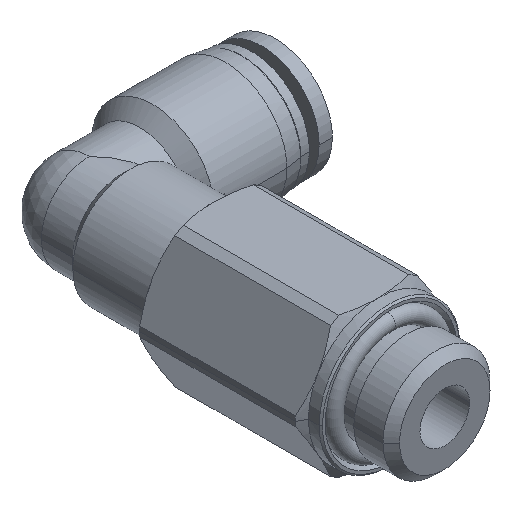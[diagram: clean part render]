
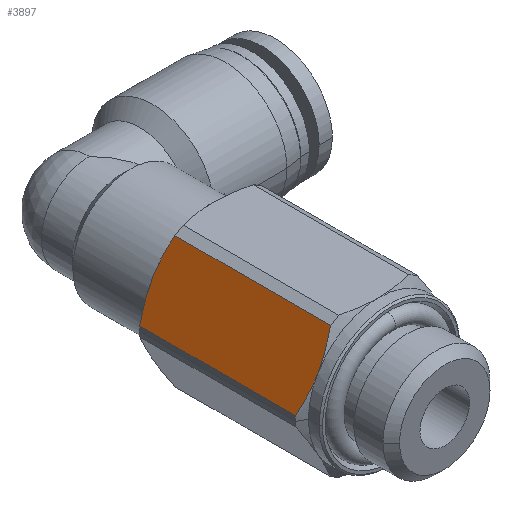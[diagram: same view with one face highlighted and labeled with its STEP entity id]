
A CAD part, isometric view. The second image highlights one B-rep face of the part: STEP entity #3897.
In plain terms, the highlighted planar face has unit normal (-0.866, 0, 0.5).
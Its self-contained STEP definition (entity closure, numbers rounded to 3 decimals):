
#51 = ORIENTED_EDGE ( 'NONE', *, *, #2745, .F. ) ;
#173 = EDGE_CURVE ( 'NONE', #3879, #340, #2476, .T. ) ;
#234 = CARTESIAN_POINT ( 'NONE',  ( -6.417, -0.119, 5.885 ) ) ;
#334 = CARTESIAN_POINT ( 'NONE',  ( -9.815, 0., 0. ) ) ;
#340 = VERTEX_POINT ( 'NONE', #2153 ) ;
#532 = CARTESIAN_POINT ( 'NONE',  ( -9.483, -19.423, 0.576 ) ) ;
#553 = CARTESIAN_POINT ( 'NONE',  ( -5.24, -19.423, 7.924 ) ) ;
#583 = CARTESIAN_POINT ( 'NONE',  ( -7.7, -20., 3.663 ) ) ;
#585 = EDGE_CURVE ( 'NONE', #1090, #591, #2220, .T. ) ;
#591 = VERTEX_POINT ( 'NONE', #3605 ) ;
#604 = CARTESIAN_POINT ( 'NONE',  ( -8.74, -19.763, 1.861 ) ) ;
#616 = EDGE_LOOP ( 'NONE', ( #51, #657, #2589, #2198, #4226, #4075 ) ) ;
#624 = CARTESIAN_POINT ( 'NONE',  ( -6.374, -0.131, 5.96 ) ) ;
#646 = CARTESIAN_POINT ( 'NONE',  ( -5.613, -0.385, 7.278 ) ) ;
#657 = ORIENTED_EDGE ( 'NONE', *, *, #3191, .F. ) ;
#729 = CARTESIAN_POINT ( 'NONE',  ( -5.24, -19.423, 7.924 ) ) ;
#859 = CARTESIAN_POINT ( 'NONE',  ( -5.24, -13.141, 7.924 ) ) ;
#864 = CARTESIAN_POINT ( 'NONE',  ( -9.296, -0.481, 0.899 ) ) ;
#872 = AXIS2_PLACEMENT_3D ( 'NONE', #334, #4572, #2799 ) ;
#885 = CARTESIAN_POINT ( 'NONE',  ( -8.841, -0.288, 1.686 ) ) ;
#946 = CARTESIAN_POINT ( 'NONE',  ( -6.482, -0.103, 5.772 ) ) ;
#1090 = VERTEX_POINT ( 'NONE', #2610 ) ;
#1250 = CARTESIAN_POINT ( 'NONE',  ( -8.549, -0.188, 2.193 ) ) ;
#1315 = CARTESIAN_POINT ( 'NONE',  ( -9.104, -19.618, 1.231 ) ) ;
#1345 = B_SPLINE_CURVE_WITH_KNOTS ( 'NONE', 3,
 ( #1578, #864, #2988, #885, #1944, #3358, #1250, #4502, #3029, #4526, #3450, #2404, #1989 ),
 .UNSPECIFIED., .F., .F.,
 ( 4, 2, 2, 1, 2, 2, 4 ),
 ( 0., 0.25, 0.375, 0.437, 0.469, 0.5, 1. ),
 .UNSPECIFIED. ) ;
#1392 = CARTESIAN_POINT ( 'NONE',  ( -9.483, -0.577, 0.576 ) ) ;
#1433 = CARTESIAN_POINT ( 'NONE',  ( -5.24, -0.577, 7.924 ) ) ;
#1455 = B_SPLINE_CURVE_WITH_KNOTS ( 'NONE', 3,
 ( #2727, #1315, #604, #2034, #583, #2012 ),
 .UNSPECIFIED., .F., .F.,
 ( 4, 2, 4 ),
 ( 0., 0.5, 1. ),
 .UNSPECIFIED. ) ;
#1571 = CARTESIAN_POINT ( 'NONE',  ( -5.24, -0.577, 7.924 ) ) ;
#1578 = CARTESIAN_POINT ( 'NONE',  ( -9.483, -0.577, 0.576 ) ) ;
#1639 = CARTESIAN_POINT ( 'NONE',  ( -5.24, -0.577, 7.924 ) ) ;
#1864 = CARTESIAN_POINT ( 'NONE',  ( -7.023, -20., 4.836 ) ) ;
#1944 = CARTESIAN_POINT ( 'NONE',  ( -8.751, -0.255, 1.843 ) ) ;
#1989 = CARTESIAN_POINT ( 'NONE',  ( -7.361, 0., 4.25 ) ) ;
#2012 = CARTESIAN_POINT ( 'NONE',  ( -7.361, -20., 4.25 ) ) ;
#2034 = CARTESIAN_POINT ( 'NONE',  ( -8.044, -19.953, 3.068 ) ) ;
#2084 = FACE_OUTER_BOUND ( 'NONE', #616, .T. ) ;
#2153 = CARTESIAN_POINT ( 'NONE',  ( -9.483, -19.423, 0.576 ) ) ;
#2198 = ORIENTED_EDGE ( 'NONE', *, *, #3264, .T. ) ;
#2220 = B_SPLINE_CURVE_WITH_KNOTS ( 'NONE', 3,
 ( #4261, #1864, #2480, #4308, #3907, #729 ),
 .UNSPECIFIED., .F., .F.,
 ( 4, 2, 4 ),
 ( 0., 0.5, 1. ),
 .UNSPECIFIED. ) ;
#2327 = CARTESIAN_POINT ( 'NONE',  ( -9.483, -13.141, 0.576 ) ) ;
#2402 = CARTESIAN_POINT ( 'NONE',  ( -6.547, -0.089, 5.66 ) ) ;
#2404 = CARTESIAN_POINT ( 'NONE',  ( -7.706, 0., 3.652 ) ) ;
#2476 = B_SPLINE_CURVE_WITH_KNOTS ( 'NONE', 3,
 ( #4059, #3396, #2327, #532 ),
 .UNSPECIFIED., .F., .F.,
 ( 4, 4 ),
 ( 0., 1. ),
 .UNSPECIFIED. ) ;
#2480 = CARTESIAN_POINT ( 'NONE',  ( -6.679, -19.953, 5.432 ) ) ;
#2589 = ORIENTED_EDGE ( 'NONE', *, *, #173, .T. ) ;
#2610 = CARTESIAN_POINT ( 'NONE',  ( -7.361, -20., 4.25 ) ) ;
#2659 = VERTEX_POINT ( 'NONE', #1433 ) ;
#2674 = CARTESIAN_POINT ( 'NONE',  ( -7.361, 0., 4.25 ) ) ;
#2725 = CARTESIAN_POINT ( 'NONE',  ( -7.361, 0., 4.25 ) ) ;
#2727 = CARTESIAN_POINT ( 'NONE',  ( -9.483, -19.423, 0.576 ) ) ;
#2745 = EDGE_CURVE ( 'NONE', #3392, #2659, #3291, .T. ) ;
#2748 = CARTESIAN_POINT ( 'NONE',  ( -7.189, 0., 4.549 ) ) ;
#2799 = DIRECTION ( 'NONE',  ( 0., 1., 0. ) ) ;
#2988 = CARTESIAN_POINT ( 'NONE',  ( -9.113, -0.397, 1.216 ) ) ;
#3029 = CARTESIAN_POINT ( 'NONE',  ( -8.437, -0.155, 2.387 ) ) ;
#3191 = EDGE_CURVE ( 'NONE', #3879, #3392, #1345, .T. ) ;
#3264 = EDGE_CURVE ( 'NONE', #340, #1090, #1455, .T. ) ;
#3291 = B_SPLINE_CURVE_WITH_KNOTS ( 'NONE', 3,
 ( #2725, #2748, #4131, #3757, #3405, #2402, #946, #234, #624, #3825, #4524, #646, #1639 ),
 .UNSPECIFIED., .F., .F.,
 ( 4, 2, 2, 1, 2, 2, 4 ),
 ( 0., 0.25, 0.375, 0.438, 0.469, 0.5, 1. ),
 .UNSPECIFIED. ) ;
#3358 = CARTESIAN_POINT ( 'NONE',  ( -8.616, -0.209, 2.076 ) ) ;
#3392 = VERTEX_POINT ( 'NONE', #2674 ) ;
#3396 = CARTESIAN_POINT ( 'NONE',  ( -9.483, -6.859, 0.576 ) ) ;
#3405 = CARTESIAN_POINT ( 'NONE',  ( -6.676, -0.062, 5.437 ) ) ;
#3450 = CARTESIAN_POINT ( 'NONE',  ( -8.043, -0.047, 3.068 ) ) ;
#3499 = PLANE ( 'NONE',  #872 ) ;
#3605 = CARTESIAN_POINT ( 'NONE',  ( -5.24, -19.423, 7.924 ) ) ;
#3757 = CARTESIAN_POINT ( 'NONE',  ( -6.761, -0.047, 5.288 ) ) ;
#3825 = CARTESIAN_POINT ( 'NONE',  ( -6.353, -0.136, 5.997 ) ) ;
#3879 = VERTEX_POINT ( 'NONE', #1392 ) ;
#3897 = ADVANCED_FACE ( 'NONE', ( #2084 ), #3499, .T. ) ;
#3907 = CARTESIAN_POINT ( 'NONE',  ( -5.619, -19.618, 7.268 ) ) ;
#3936 = B_SPLINE_CURVE_WITH_KNOTS ( 'NONE', 3,
 ( #553, #859, #4060, #1571 ),
 .UNSPECIFIED., .F., .F.,
 ( 4, 4 ),
 ( 0., 1. ),
 .UNSPECIFIED. ) ;
#4059 = CARTESIAN_POINT ( 'NONE',  ( -9.483, -0.577, 0.576 ) ) ;
#4060 = CARTESIAN_POINT ( 'NONE',  ( -5.24, -6.859, 7.924 ) ) ;
#4075 = ORIENTED_EDGE ( 'NONE', *, *, #4235, .T. ) ;
#4131 = CARTESIAN_POINT ( 'NONE',  ( -7.018, -0.012, 4.844 ) ) ;
#4226 = ORIENTED_EDGE ( 'NONE', *, *, #585, .T. ) ;
#4235 = EDGE_CURVE ( 'NONE', #591, #2659, #3936, .T. ) ;
#4261 = CARTESIAN_POINT ( 'NONE',  ( -7.361, -20., 4.25 ) ) ;
#4308 = CARTESIAN_POINT ( 'NONE',  ( -5.982, -19.763, 6.639 ) ) ;
#4502 = CARTESIAN_POINT ( 'NONE',  ( -8.482, -0.168, 2.309 ) ) ;
#4524 = CARTESIAN_POINT ( 'NONE',  ( -5.972, -0.24, 6.657 ) ) ;
#4526 = CARTESIAN_POINT ( 'NONE',  ( -8.414, -0.148, 2.427 ) ) ;
#4572 = DIRECTION ( 'NONE',  ( -0.866, 0., 0.5 ) ) ;
